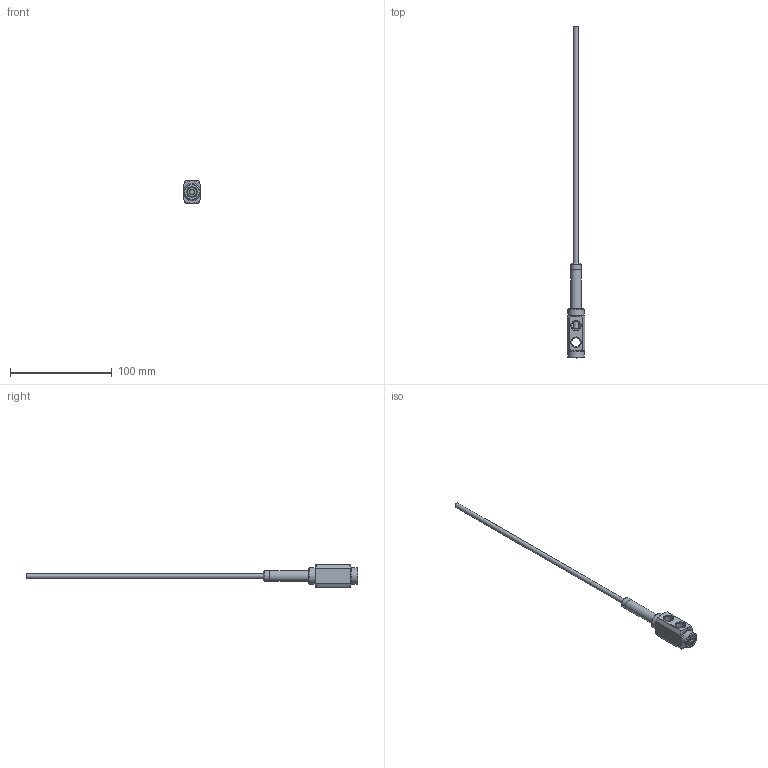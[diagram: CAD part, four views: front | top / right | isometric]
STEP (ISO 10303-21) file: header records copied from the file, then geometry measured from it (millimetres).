
FILE_DESCRIPTION(/* description */ (''),/* implementation_level */ '2;1');
FILE_NAME(/* name */ 'C:/Users/drich/Desktop/186N-RL v2.step',/* time_stamp */ '2020-01-15T19:43:27-06:00',/* author */ (''),/* organization */ (''),/* preprocessor_version */ 'ST-DEVELOPER v18',/* originating_system */ 'Autodesk Translation Framework v8.12.0.6',/* authorisation */ '');
FILE_SCHEMA (('AUTOMOTIVE_DESIGN { 1 0 10303 214 3 1 1 }'));
Length unit declared in the file: inch
Products named in the file (5): 186N-RL; 186H-RL; SSPN18-2; PT16-187-12; BF-18
Assembly tree (4 placements, depth 2):
  186N-RL
    186H-RL
    SSPN18-2
    PT16-187-12
    BF-18
Bounding box: 17.42 x 325.82 x 22.23 mm (x, y, z)
Volume: 15249.3 mm3; surface area: 17113.1 mm2
Topology: 4 solids, 4 shells, 94 faces, 250 edges, 171 vertices
Faces by surface type: plane 42, cone 24, cylinder 22, torus 6
Full cylindrical faces by diameter (mm): 3.962 x1, 4.242 x1, 4.724 x1, 5.969 x1, 6.697 x1, 6.833 x1, 7.616 x1, 8.707 x5, 9.621 x1, 10.262 x2, 10.312 x1, 15.875 x2
Entity records: 3176 total; most frequent: CARTESIAN_POINT 621, DIRECTION 545, ORIENTED_EDGE 500, EDGE_CURVE 250, AXIS2_PLACEMENT_3D 230, VERTEX_POINT 171, CIRCLE 119, EDGE_LOOP 113
